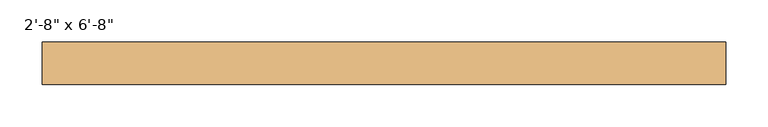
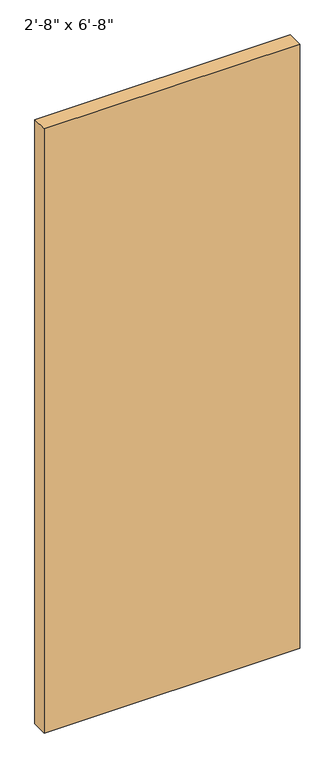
"""IFC4 building model written with IfcOpenShell, lengths in millimetres: door geometry."""

from ifc_helpers import new_model, si_unit, origin, origin_with_axes, place, context, project, spatial, polyline, outline, extrude, source, transform, mapped, element, save


def door_46b09886(model_context):
    return source(origin(), model_context, "Body", "SweptSolid", [
        extrude(outline(polyline([(406.4, 6.15), (-406.4, 6.15), (-406.4, 57.15), (406.4, 57.15), (406.4, 6.15)])), origin_with_axes(), (0.0, 0.0, 1.0), 2032.0),
    ])


if __name__ == "__main__":
    model = new_model("IFC4")
    model_context = context("Model", 3, world=origin())
    ifc_project = project(units=[si_unit("LENGTHUNIT", "METRE", prefix="MILLI")], contexts=[model_context])
    site = spatial("IfcSite", under=ifc_project)
    building = spatial("IfcBuilding", under=site)
    placement = place(None, origin())
    door_shape = door_46b09886(model_context)
    element("IfcDoor", 1, ObjectType="Planitar - Single Door_Flush Panel : 2'-8\" x 6'-8\"", at=placement, inside=building, context=model_context, shape_type="MappedRepresentation", body=[
        mapped(door_shape, transform((0.0, 0.0, 0.0), x_axis=(1.0, 0.0, 0.0), y_axis=(0.0, 1.0, 0.0), z_axis=(0.0, 0.0, 1.0))),
    ])
    save(model, "model.ifc")
